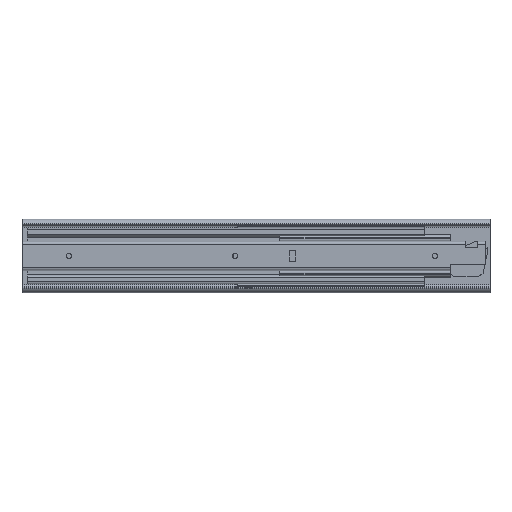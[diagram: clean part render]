
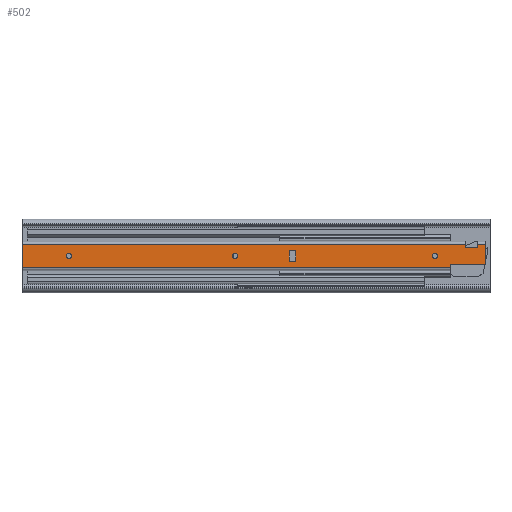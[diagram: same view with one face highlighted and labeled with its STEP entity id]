
A CAD part, top view. The second image highlights one B-rep face of the part: STEP entity #502.
In plain terms, the highlighted planar face has unit normal (0, 0, 1).
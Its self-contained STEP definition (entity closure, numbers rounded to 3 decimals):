
#502 = ADVANCED_FACE( '', ( #1142, #1143, #1144, #1145, #1146 ), #1147, .F. );
#1142 = FACE_BOUND( '', #1792, .T. );
#1143 = FACE_BOUND( '', #1793, .T. );
#1144 = FACE_BOUND( '', #1794, .T. );
#1145 = FACE_BOUND( '', #1795, .T. );
#1146 = FACE_OUTER_BOUND( '', #1796, .T. );
#1147 = PLANE( '', #1797 );
#1792 = EDGE_LOOP( '', ( #4377, #4378, #4379, #4380 ) );
#1793 = EDGE_LOOP( '', ( #4381 ) );
#1794 = EDGE_LOOP( '', ( #4382 ) );
#1795 = EDGE_LOOP( '', ( #4383 ) );
#1796 = EDGE_LOOP( '', ( #4384, #4385, #4386, #4387, #4388, #4389, #4390, #4391, #4392, #4393 ) );
#1797 = AXIS2_PLACEMENT_3D( '', #4394, #4395, #4396 );
#4377 = ORIENTED_EDGE( '', *, *, #5114, .F. );
#4378 = ORIENTED_EDGE( '', *, *, #5117, .F. );
#4379 = ORIENTED_EDGE( '', *, *, #5119, .F. );
#4380 = ORIENTED_EDGE( '', *, *, #5121, .F. );
#4381 = ORIENTED_EDGE( '', *, *, #5122, .F. );
#4382 = ORIENTED_EDGE( '', *, *, #5124, .F. );
#4383 = ORIENTED_EDGE( '', *, *, #5126, .F. );
#4384 = ORIENTED_EDGE( '', *, *, #5105, .F. );
#4385 = ORIENTED_EDGE( '', *, *, #5103, .F. );
#4386 = ORIENTED_EDGE( '', *, *, #5297, .T. );
#4387 = ORIENTED_EDGE( '', *, *, #5276, .T. );
#4388 = ORIENTED_EDGE( '', *, *, #5300, .F. );
#4389 = ORIENTED_EDGE( '', *, *, #5193, .F. );
#4390 = ORIENTED_EDGE( '', *, *, #5298, .F. );
#4391 = ORIENTED_EDGE( '', *, *, #5275, .F. );
#4392 = ORIENTED_EDGE( '', *, *, #5288, .T. );
#4393 = ORIENTED_EDGE( '', *, *, #5092, .F. );
#4394 = CARTESIAN_POINT( '', ( 446., 11.25, 0. ) );
#4395 = DIRECTION( '', ( 0., 0., -1. ) );
#4396 = DIRECTION( '', ( -1., 0., 0. ) );
#5092 = EDGE_CURVE( '', #6397, #6399, #6400, .T. );
#5103 = EDGE_CURVE( '', #6418, #6420, #6421, .T. );
#5105 = EDGE_CURVE( '', #6420, #6397, #6423, .T. );
#5114 = EDGE_CURVE( '', #6436, #6437, #6438, .T. );
#5117 = EDGE_CURVE( '', #6441, #6436, #6442, .T. );
#5119 = EDGE_CURVE( '', #6444, #6441, #6445, .T. );
#5121 = EDGE_CURVE( '', #6437, #6444, #6447, .T. );
#5122 = EDGE_CURVE( '', #6448, #6448, #6449, .T. );
#5124 = EDGE_CURVE( '', #6452, #6452, #6453, .T. );
#5126 = EDGE_CURVE( '', #6456, #6456, #6457, .T. );
#5193 = EDGE_CURVE( '', #6570, #6572, #6573, .T. );
#5275 = EDGE_CURVE( '', #6703, #6693, #6705, .T. );
#5276 = EDGE_CURVE( '', #6706, #6707, #6708, .T. );
#5288 = EDGE_CURVE( '', #6703, #6399, #6726, .T. );
#5297 = EDGE_CURVE( '', #6418, #6706, #6735, .T. );
#5298 = EDGE_CURVE( '', #6693, #6570, #6736, .T. );
#5300 = EDGE_CURVE( '', #6572, #6707, #6738, .T. );
#6397 = VERTEX_POINT( '', #8311 );
#6399 = VERTEX_POINT( '', #8314 );
#6400 = LINE( '', #8315, #8316 );
#6418 = VERTEX_POINT( '', #8338 );
#6420 = VERTEX_POINT( '', #8340 );
#6421 = LINE( '', #8341, #8342 );
#6423 = LINE( '', #8345, #8346 );
#6436 = VERTEX_POINT( '', #8367 );
#6437 = VERTEX_POINT( '', #8368 );
#6438 = LINE( '', #8369, #8370 );
#6441 = VERTEX_POINT( '', #8375 );
#6442 = LINE( '', #8376, #8377 );
#6444 = VERTEX_POINT( '', #8380 );
#6445 = LINE( '', #8381, #8382 );
#6447 = LINE( '', #8385, #8386 );
#6448 = VERTEX_POINT( '', #8387 );
#6449 = CIRCLE( '', #8388, 2.5 );
#6452 = VERTEX_POINT( '', #8391 );
#6453 = CIRCLE( '', #8392, 2.5 );
#6456 = VERTEX_POINT( '', #8395 );
#6457 = CIRCLE( '', #8396, 2.5 );
#6570 = VERTEX_POINT( '', #8549 );
#6572 = VERTEX_POINT( '', #8552 );
#6573 = LINE( '', #8553, #8554 );
#6693 = VERTEX_POINT( '', #8729 );
#6703 = VERTEX_POINT( '', #8742 );
#6705 = LINE( '', #8744, #8745 );
#6706 = VERTEX_POINT( '', #8746 );
#6707 = VERTEX_POINT( '', #8747 );
#6708 = LINE( '', #8748, #8749 );
#6726 = LINE( '', #8772, #8773 );
#6735 = LINE( '', #8790, #8791 );
#6736 = LINE( '', #8792, #8793 );
#6738 = LINE( '', #8796, #8797 );
#8311 = CARTESIAN_POINT( '', ( 438., 8., 0. ) );
#8314 = CARTESIAN_POINT( '', ( 438., 11.25, 0. ) );
#8315 = CARTESIAN_POINT( '', ( 438., 8., 0. ) );
#8316 = VECTOR( '', #9821, 1000. );
#8338 = CARTESIAN_POINT( '', ( 426., 11.25, 0. ) );
#8340 = CARTESIAN_POINT( '', ( 426., 8., 0. ) );
#8341 = CARTESIAN_POINT( '', ( 426., 18., 0. ) );
#8342 = VECTOR( '', #9844, 1000. );
#8345 = CARTESIAN_POINT( '', ( 426., 8., 0. ) );
#8346 = VECTOR( '', #9846, 1000. );
#8367 = CARTESIAN_POINT( '', ( 263., -5., 0. ) );
#8368 = CARTESIAN_POINT( '', ( 263., 5., 0. ) );
#8369 = CARTESIAN_POINT( '', ( 263., -5., 0. ) );
#8370 = VECTOR( '', #9855, 1000. );
#8375 = CARTESIAN_POINT( '', ( 257., -5., 0. ) );
#8376 = CARTESIAN_POINT( '', ( 257., -5., 0. ) );
#8377 = VECTOR( '', #9858, 1000. );
#8380 = CARTESIAN_POINT( '', ( 257., 5., 0. ) );
#8381 = CARTESIAN_POINT( '', ( 257., 5., 0. ) );
#8382 = VECTOR( '', #9860, 1000. );
#8385 = CARTESIAN_POINT( '', ( 263., 5., 0. ) );
#8386 = VECTOR( '', #9862, 1000. );
#8387 = CARTESIAN_POINT( '', ( 399.5, 0., 0. ) );
#8388 = AXIS2_PLACEMENT_3D( '', #9863, #9864, #9865 );
#8391 = CARTESIAN_POINT( '', ( 207.5, 0., 0. ) );
#8392 = AXIS2_PLACEMENT_3D( '', #9869, #9870, #9871 );
#8395 = CARTESIAN_POINT( '', ( 47.5, 0., 0. ) );
#8396 = AXIS2_PLACEMENT_3D( '', #9875, #9876, #9877 );
#8549 = CARTESIAN_POINT( '', ( 412., -8., 0. ) );
#8552 = CARTESIAN_POINT( '', ( 412., -11.25, 0. ) );
#8553 = CARTESIAN_POINT( '', ( 412., -8., 0. ) );
#8554 = VECTOR( '', #9994, 1000. );
#8729 = CARTESIAN_POINT( '', ( 446., -8., 0. ) );
#8742 = CARTESIAN_POINT( '', ( 446., 11.25, 0. ) );
#8744 = CARTESIAN_POINT( '', ( 446., 11.25, 0. ) );
#8745 = VECTOR( '', #10122, 1000. );
#8746 = CARTESIAN_POINT( '', ( 0., 11.25, 0. ) );
#8747 = CARTESIAN_POINT( '', ( 0., -11.25, 0. ) );
#8748 = CARTESIAN_POINT( '', ( 0., 11.25, 0. ) );
#8749 = VECTOR( '', #10123, 1000. );
#8772 = CARTESIAN_POINT( '', ( 446., 11.25, 0. ) );
#8773 = VECTOR( '', #10147, 1000. );
#8790 = CARTESIAN_POINT( '', ( 446., 11.25, 0. ) );
#8791 = VECTOR( '', #10156, 1000. );
#8792 = CARTESIAN_POINT( '', ( 446., -8., 0. ) );
#8793 = VECTOR( '', #10157, 1000. );
#8796 = CARTESIAN_POINT( '', ( 446., -11.25, 0. ) );
#8797 = VECTOR( '', #10159, 1000. );
#9821 = DIRECTION( '', ( 0., 1., 0. ) );
#9844 = DIRECTION( '', ( 0., -1., 0. ) );
#9846 = DIRECTION( '', ( 1., 0., 0. ) );
#9855 = DIRECTION( '', ( 0., 1., 0. ) );
#9858 = DIRECTION( '', ( 1., 0., 0. ) );
#9860 = DIRECTION( '', ( 0., -1., 0. ) );
#9862 = DIRECTION( '', ( -1., 0., 0. ) );
#9863 = CARTESIAN_POINT( '', ( 397., 0., 0. ) );
#9864 = DIRECTION( '', ( 0., 0., 1. ) );
#9865 = DIRECTION( '', ( 1., 0., 0. ) );
#9869 = CARTESIAN_POINT( '', ( 205., 0., 0. ) );
#9870 = DIRECTION( '', ( 0., 0., 1. ) );
#9871 = DIRECTION( '', ( 1., 0., 0. ) );
#9875 = CARTESIAN_POINT( '', ( 45., 0., 0. ) );
#9876 = DIRECTION( '', ( 0., 0., 1. ) );
#9877 = DIRECTION( '', ( 1., 0., 0. ) );
#9994 = DIRECTION( '', ( 0., -1., 0. ) );
#10122 = DIRECTION( '', ( 0., -1., 0. ) );
#10123 = DIRECTION( '', ( 0., -1., 0. ) );
#10147 = DIRECTION( '', ( -1., 0., 0. ) );
#10156 = DIRECTION( '', ( -1., 0., 0. ) );
#10157 = DIRECTION( '', ( -1., 0., 0. ) );
#10159 = DIRECTION( '', ( -1., 0., 0. ) );
